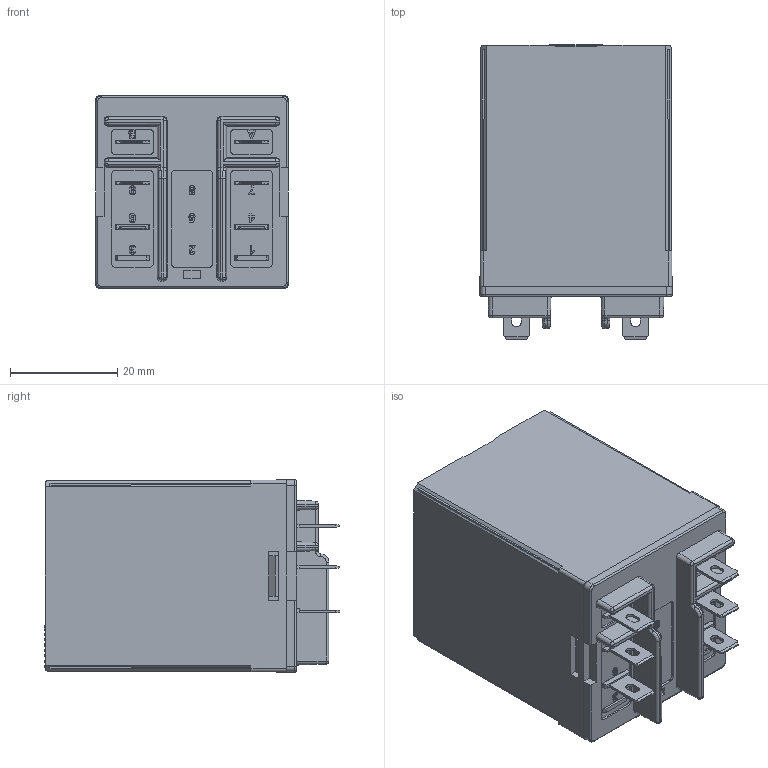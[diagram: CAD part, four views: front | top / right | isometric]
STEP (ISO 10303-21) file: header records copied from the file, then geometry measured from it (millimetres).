
FILE_DESCRIPTION (( 'STEP AP214' ), '1' );
FILE_NAME ('REH1AOLT 珨郪都羲湍偌聽.STEP', '2024-12-10T09:58:06', ( 'admin' ), ( '' ), 'SwSTEP 2.0', 'SolidWorks 2022', '' );
FILE_SCHEMA (( 'AUTOMOTIVE_DESIGN' ));
Length unit declared in the file: millimetre
Products named in the file (1): REH1AOLT 珨郪都羲湍偌聽
Bounding box: 35.8 x 54.98 x 35.8 mm (x, y, z)
Volume: 59335.9 mm3; surface area: 12793.7 mm2
Topology: 1 solids, 23 shells, 1036 faces, 2733 edges, 1788 vertices
Faces by surface type: plane 704, cylinder 203, bspline 97, torus 18, cone 14
Entity records: 36323 total; most frequent: CARTESIAN_POINT 11243, ORIENTED_EDGE 5466, DIRECTION 4711, EDGE_CURVE 2733, LINE 1991, VECTOR 1991, VERTEX_POINT 1788, AXIS2_PLACEMENT_3D 1360
